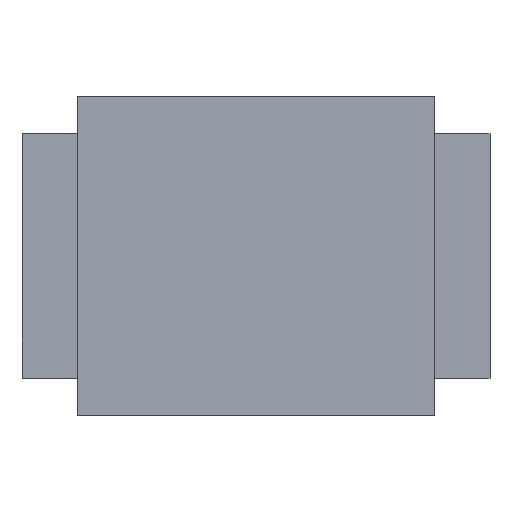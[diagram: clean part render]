
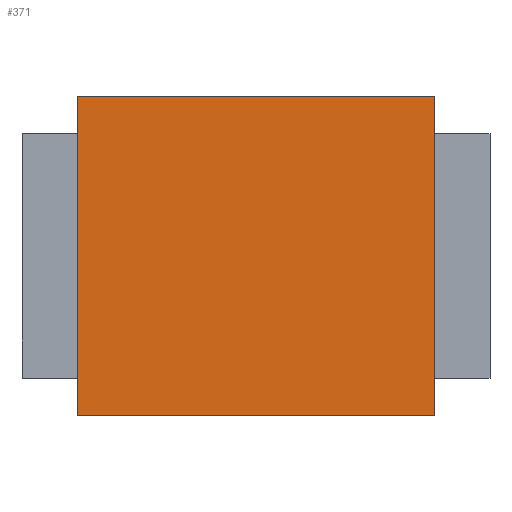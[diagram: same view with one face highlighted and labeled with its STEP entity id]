
A CAD part, top view. The second image highlights one B-rep face of the part: STEP entity #371.
In plain terms, the highlighted planar face has unit normal (0, 0, 1).
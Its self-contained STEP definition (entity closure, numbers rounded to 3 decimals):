
#371=ADVANCED_FACE('',(#617),#619,.T.);
#617=FACE_BOUND('',#618,.T.);
#618=EDGE_LOOP('',(#968,#969,#970,#971));
#619=PLANE('',#620);
#620=AXIS2_PLACEMENT_3D('',#621,#622,#623);
#621=CARTESIAN_POINT('',(0.,0.,0.605));
#622=DIRECTION('',(0.,0.,1.));
#623=DIRECTION('',(-1.,0.,0.));
#968=ORIENTED_EDGE('',*,*,#1188,.T.);
#969=ORIENTED_EDGE('',*,*,#1186,.T.);
#970=ORIENTED_EDGE('',*,*,#1176,.T.);
#971=ORIENTED_EDGE('',*,*,#1174,.T.);
#1174=EDGE_CURVE('',#1401,#1399,#1402,.T.);
#1176=EDGE_CURVE('',#1404,#1401,#1405,.F.);
#1186=EDGE_CURVE('',#1419,#1404,#1420,.T.);
#1188=EDGE_CURVE('',#1399,#1419,#1422,.F.);
#1399=VERTEX_POINT('',#1694);
#1401=VERTEX_POINT('',#1698);
#1402=LINE('',#1699,#1700);
#1404=VERTEX_POINT('',#1705);
#1405=LINE('',#1706,#1707);
#1419=VERTEX_POINT('',#1740);
#1420=LINE('',#1741,#1742);
#1422=LINE('',#1747,#1748);
#1694=CARTESIAN_POINT('',(0.699,-0.625,0.605));
#1698=CARTESIAN_POINT('',(-0.699,-0.625,0.605));
#1699=CARTESIAN_POINT('',(-0.699,-0.625,0.605));
#1700=VECTOR('',#1701,1.);
#1701=DIRECTION('',(1.,0.,0.));
#1705=CARTESIAN_POINT('',(-0.699,0.625,0.605));
#1706=CARTESIAN_POINT('',(-0.699,-0.625,0.605));
#1707=VECTOR('',#1708,1.);
#1708=DIRECTION('',(0.,1.,0.));
#1740=CARTESIAN_POINT('',(0.699,0.625,0.605));
#1741=CARTESIAN_POINT('',(0.699,0.625,0.605));
#1742=VECTOR('',#1743,1.);
#1743=DIRECTION('',(-1.,0.,0.));
#1747=CARTESIAN_POINT('',(0.699,0.625,0.605));
#1748=VECTOR('',#1749,1.);
#1749=DIRECTION('',(0.,-1.,0.));
